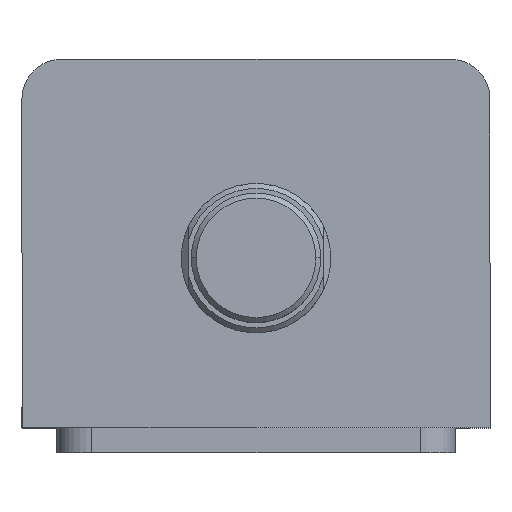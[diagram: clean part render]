
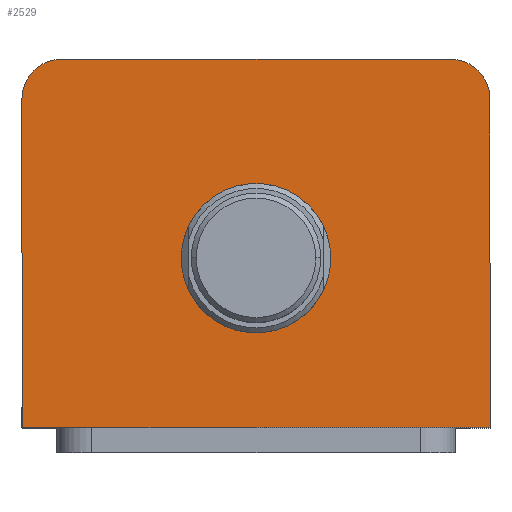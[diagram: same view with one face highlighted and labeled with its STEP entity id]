
A CAD part, top view. The second image highlights one B-rep face of the part: STEP entity #2529.
In plain terms, the highlighted planar face has unit normal (0, 0, 1).
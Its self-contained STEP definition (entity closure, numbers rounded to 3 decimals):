
#87 = AXIS2_PLACEMENT_3D ( 'NONE', #361, #362, #363 ) ;
#108 = AXIS2_PLACEMENT_3D ( 'NONE', #482, #483, #484 ) ;
#328 = CARTESIAN_POINT ( 'NONE',  ( -47., -37., 85. ) ) ;
#329 = DIRECTION ( 'NONE',  ( 1., 0., 0. ) ) ;
#343 = CARTESIAN_POINT ( 'NONE',  ( -47., 37., 85. ) ) ;
#344 = DIRECTION ( 'NONE',  ( 0., -1., 0. ) ) ;
#361 = CARTESIAN_POINT ( 'NONE',  ( 0., -3., 85. ) ) ;
#362 = DIRECTION ( 'NONE',  ( 0., 0., 1. ) ) ;
#363 = DIRECTION ( 'NONE',  ( 1., 0., 0. ) ) ;
#482 = CARTESIAN_POINT ( 'NONE',  ( 0., -3., 85. ) ) ;
#483 = DIRECTION ( 'NONE',  ( 0., 0., 1. ) ) ;
#484 = DIRECTION ( 'NONE',  ( 1., 0., 0. ) ) ;
#558 = CARTESIAN_POINT ( 'NONE',  ( 47., 37., 85. ) ) ;
#559 = DIRECTION ( 'NONE',  ( 0., 1., 0. ) ) ;
#774 = CIRCLE ( 'NONE', #108, 15. ) ;
#824 = LINE ( 'NONE', #558, #827 ) ;
#827 = VECTOR ( 'NONE', #559, 1000. ) ;
#1098 = EDGE_LOOP ( 'NONE', ( #2742, #2735, #2740, #2732, #2749, #2698 ) ) ;
#1158 = EDGE_LOOP ( 'NONE', ( #2741, #2730 ) ) ;
#1296 = FACE_OUTER_BOUND ( 'NONE', #1098, .T. ) ;
#1317 = FACE_BOUND ( 'NONE', #1158, .T. ) ;
#1354 = CIRCLE ( 'NONE', #2963, 8. ) ;
#1367 = CIRCLE ( 'NONE', #2955, 8. ) ;
#1383 = VECTOR ( 'NONE', #2592, 1000. ) ;
#1386 = LINE ( 'NONE', #2623, #1383 ) ;
#1627 = EDGE_CURVE ( 'NONE', #1884, #1888, #1386, .T. ) ;
#1640 = EDGE_CURVE ( 'NONE', #1767, #1884, #1367, .T. ) ;
#1650 = EDGE_CURVE ( 'NONE', #1888, #2633, #1354, .T. ) ;
#1767 = VERTEX_POINT ( 'NONE', #2479 ) ;
#1774 = VERTEX_POINT ( 'NONE', #2471 ) ;
#1815 = VERTEX_POINT ( 'NONE', #2404 ) ;
#1820 = VERTEX_POINT ( 'NONE', #2395 ) ;
#1884 = VERTEX_POINT ( 'NONE', #2393 ) ;
#1886 = VERTEX_POINT ( 'NONE', #2387 ) ;
#1888 = VERTEX_POINT ( 'NONE', #2381 ) ;
#1956 = PLANE ( 'NONE',  #2986 ) ;
#1966 = CARTESIAN_POINT ( 'NONE',  ( -47., 29., 85. ) ) ;
#2059 = DIRECTION ( 'NONE',  ( 1., 0., 0. ) ) ;
#2061 = DIRECTION ( 'NONE',  ( 0., 0., 1. ) ) ;
#2063 = CARTESIAN_POINT ( 'NONE',  ( 0., 0., 85. ) ) ;
#2095 = VECTOR ( 'NONE', #329, 1000. ) ;
#2099 = LINE ( 'NONE', #328, #2095 ) ;
#2297 = LINE ( 'NONE', #343, #2302 ) ;
#2302 = VECTOR ( 'NONE', #344, 1000. ) ;
#2381 = CARTESIAN_POINT ( 'NONE',  ( -39., 37., 85. ) ) ;
#2387 = CARTESIAN_POINT ( 'NONE',  ( -47., -37., 85. ) ) ;
#2393 = CARTESIAN_POINT ( 'NONE',  ( 39., 37., 85. ) ) ;
#2395 = CARTESIAN_POINT ( 'NONE',  ( 15., -3., 85. ) ) ;
#2404 = CARTESIAN_POINT ( 'NONE',  ( 47., -37., 85. ) ) ;
#2446 = DIRECTION ( 'NONE',  ( 1., 0., 0. ) ) ;
#2465 = DIRECTION ( 'NONE',  ( 0., 0., 1. ) ) ;
#2471 = CARTESIAN_POINT ( 'NONE',  ( -15., -3., 85. ) ) ;
#2473 = CARTESIAN_POINT ( 'NONE',  ( -39., 29., 85. ) ) ;
#2479 = CARTESIAN_POINT ( 'NONE',  ( 47., 29., 85. ) ) ;
#2520 = CIRCLE ( 'NONE', #87, 15. ) ;
#2529 = ADVANCED_FACE ( 'NONE', ( #1317, #1296 ), #1956, .T. ) ;
#2547 = CARTESIAN_POINT ( 'NONE',  ( 39., 29., 85. ) ) ;
#2582 = DIRECTION ( 'NONE',  ( 0., 0., 1. ) ) ;
#2583 = DIRECTION ( 'NONE',  ( 1., 0., 0. ) ) ;
#2592 = DIRECTION ( 'NONE',  ( -1., 0., 0. ) ) ;
#2623 = CARTESIAN_POINT ( 'NONE',  ( -47., 37., 85. ) ) ;
#2633 = VERTEX_POINT ( 'NONE', #1966 ) ;
#2698 = ORIENTED_EDGE ( 'NONE', *, *, #1640, .T. ) ;
#2730 = ORIENTED_EDGE ( 'NONE', *, *, #3072, .F. ) ;
#2732 = ORIENTED_EDGE ( 'NONE', *, *, #3007, .T. ) ;
#2735 = ORIENTED_EDGE ( 'NONE', *, *, #1650, .T. ) ;
#2740 = ORIENTED_EDGE ( 'NONE', *, *, #3015, .T. ) ;
#2741 = ORIENTED_EDGE ( 'NONE', *, *, #3024, .F. ) ;
#2742 = ORIENTED_EDGE ( 'NONE', *, *, #1627, .T. ) ;
#2749 = ORIENTED_EDGE ( 'NONE', *, *, #3104, .T. ) ;
#2955 = AXIS2_PLACEMENT_3D ( 'NONE', #2547, #2582, #2583 ) ;
#2963 = AXIS2_PLACEMENT_3D ( 'NONE', #2473, #2465, #2446 ) ;
#2986 = AXIS2_PLACEMENT_3D ( 'NONE', #2063, #2061, #2059 ) ;
#3007 = EDGE_CURVE ( 'NONE', #1886, #1815, #2099, .T. ) ;
#3015 = EDGE_CURVE ( 'NONE', #2633, #1886, #2297, .T. ) ;
#3024 = EDGE_CURVE ( 'NONE', #1820, #1774, #2520, .T. ) ;
#3072 = EDGE_CURVE ( 'NONE', #1774, #1820, #774, .T. ) ;
#3104 = EDGE_CURVE ( 'NONE', #1815, #1767, #824, .T. ) ;
